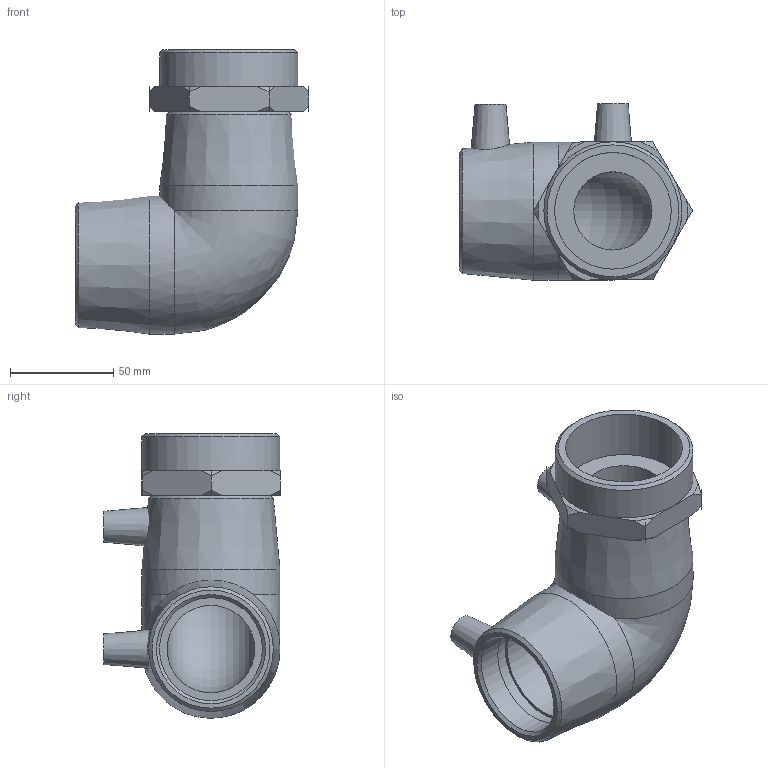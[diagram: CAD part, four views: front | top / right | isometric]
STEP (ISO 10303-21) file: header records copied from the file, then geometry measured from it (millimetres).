
FILE_DESCRIPTION(/* description */ ('PLASSON 90° ELBOW FEMALE TRANSITION 50-2'''''),/* implementation_level */ '2;1');
FILE_NAME(/* name */ 'C:\Dropbox\KIMPROJECTS-Inventor\99-16-3568-Processing\ElectroFusion Fittings\02.02.20\493504\493504050020.ipt.stp',/* time_stamp */ '2020-02-02T12:34:34+02:00',/* author */ ('KIM'),/* organization */ (''),/* preprocessor_version */ 'ST-DEVELOPER v15.6',/* originating_system */ 'Autodesk Inventor 2015',/* authorisation */ '');
FILE_SCHEMA (('AUTOMOTIVE_DESIGN { 1 0 10303 214 3 1 1 }'));
Length unit declared in the file: millimetre
Products named in the file (1): 493504050020
Bounding box: 113.18 x 85.59 x 138 mm (x, y, z)
Volume: 302304.9 mm3; surface area: 70897.6 mm2
Topology: 1 solids, 2 shells, 76 faces, 206 edges, 141 vertices
Faces by surface type: plane 27, cylinder 25, cone 22, bspline 1, torus 1
Full cylindrical faces by diameter (mm): 4 x2, 10 x2, 38 x1, 50 x4, 56.656 x1, 67 x3
Entity records: 2375 total; most frequent: CARTESIAN_POINT 512, DIRECTION 384, ORIENTED_EDGE 332, AXIS2_PLACEMENT_3D 168, EDGE_CURVE 166, VERTEX_POINT 129, EDGE_LOOP 115, CIRCLE 91
